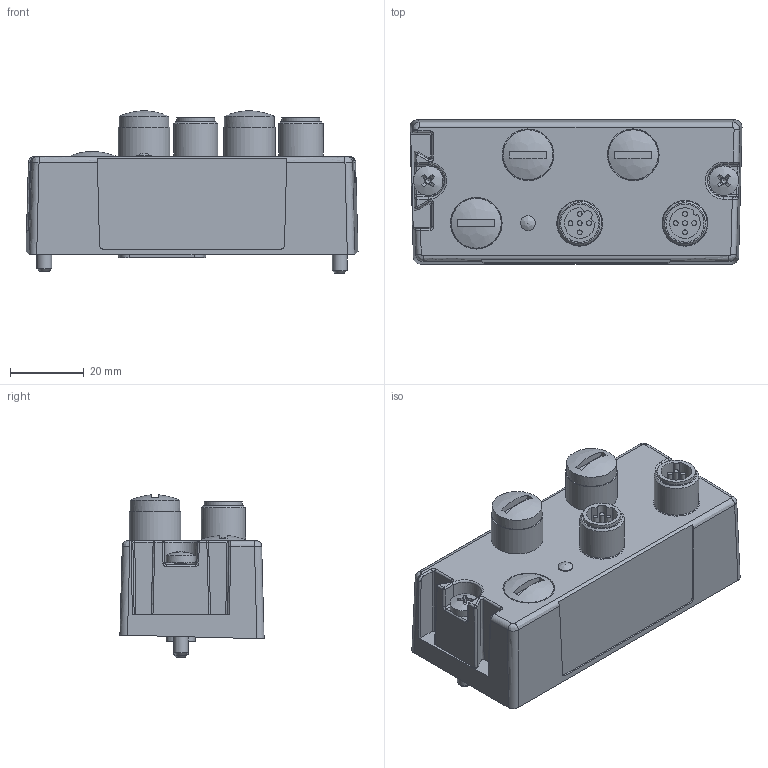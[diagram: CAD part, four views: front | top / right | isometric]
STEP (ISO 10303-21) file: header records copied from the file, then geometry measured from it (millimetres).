
FILE_DESCRIPTION((''),'2;1');
FILE_NAME('E:\temp\ms32_104.stp','2008-06-16T14:45:18',('User'),('SDRC'), 'I-DEAS Master Series 9','UNIX','Yes');
FILE_SCHEMA(('CONFIG_CONTROL_DESIGN', 'GEOMETRIC_VALIDATION_PROPERTIES_MIM','SHAPE_APPEARANCE_LAYER_MIM'));
Length unit declared in the file: millimetre
Bounding box: 89.87 x 39.03 x 43.93 mm (x, y, z)
Volume: 67444.3 mm3; surface area: 23215.9 mm2
Topology: 1 solids, 4 shells, 386 faces, 906 edges, 572 vertices
Faces by surface type: bspline 386
Entity records: 13296 total; most frequent: CARTESIAN_POINT 7316, ORIENTED_EDGE 1796, EDGE_CURVE 898, VERTEX_POINT 571, OVER_RIDING_STYLED_ITEM 505, EDGE_LOOP 445, B_SPLINE_CURVE_WITH_KNOTS 403, FACE_OUTER_BOUND 386
